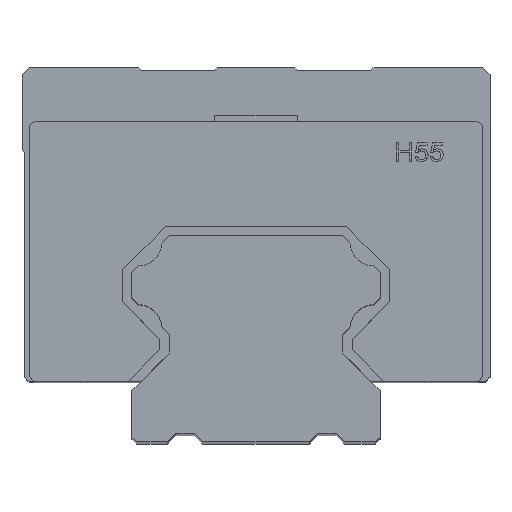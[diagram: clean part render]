
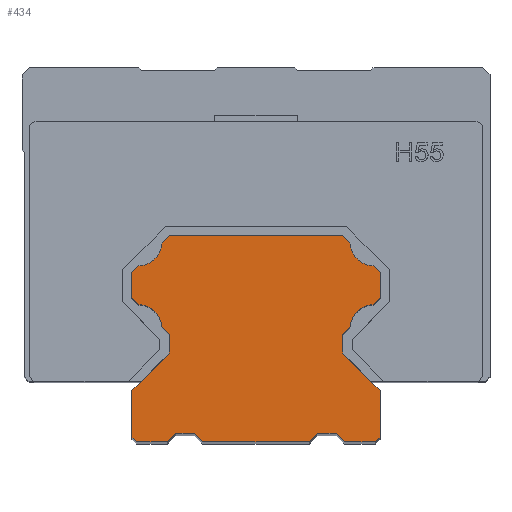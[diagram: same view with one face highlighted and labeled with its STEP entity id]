
A CAD part, top view. The second image highlights one B-rep face of the part: STEP entity #434.
In plain terms, the highlighted planar face has unit normal (0, 0, 1).
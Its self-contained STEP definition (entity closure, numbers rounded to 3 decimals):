
#215=FACE_OUTER_BOUND('',#917,.T.);
#434=ADVANCED_FACE('',(#215),#632,.F.);
#632=PLANE('',#4049);
#799=CIRCLE('',#4045,5.3);
#800=CIRCLE('',#4046,5.3);
#801=CIRCLE('',#4047,5.3);
#802=CIRCLE('',#4048,5.3);
#917=EDGE_LOOP('',(#1153,#1154,#1155,#1156,#1157,#1158,#1159,#1160,#1161,
#1162,#1163,#1164,#1165,#1166,#1167,#1168,#1169,#1170,#1171,#1172,#1173,
#1174,#1175,#1176,#1177,#1178,#1179,#1180,#1181,#1182,#1183,#1184));
#1153=ORIENTED_EDGE('',*,*,#2629,.F.);
#1154=ORIENTED_EDGE('',*,*,#2630,.F.);
#1155=ORIENTED_EDGE('',*,*,#2631,.F.);
#1156=ORIENTED_EDGE('',*,*,#2612,.T.);
#1157=ORIENTED_EDGE('',*,*,#2632,.F.);
#1158=ORIENTED_EDGE('',*,*,#2633,.F.);
#1159=ORIENTED_EDGE('',*,*,#2634,.F.);
#1160=ORIENTED_EDGE('',*,*,#2635,.T.);
#1161=ORIENTED_EDGE('',*,*,#2636,.F.);
#1162=ORIENTED_EDGE('',*,*,#2637,.T.);
#1163=ORIENTED_EDGE('',*,*,#2638,.F.);
#1164=ORIENTED_EDGE('',*,*,#2639,.T.);
#1165=ORIENTED_EDGE('',*,*,#2640,.F.);
#1166=ORIENTED_EDGE('',*,*,#2641,.F.);
#1167=ORIENTED_EDGE('',*,*,#2642,.F.);
#1168=ORIENTED_EDGE('',*,*,#2643,.T.);
#1169=ORIENTED_EDGE('',*,*,#2644,.F.);
#1170=ORIENTED_EDGE('',*,*,#2645,.F.);
#1171=ORIENTED_EDGE('',*,*,#2646,.F.);
#1172=ORIENTED_EDGE('',*,*,#2622,.F.);
#1173=ORIENTED_EDGE('',*,*,#2647,.F.);
#1174=ORIENTED_EDGE('',*,*,#2648,.F.);
#1175=ORIENTED_EDGE('',*,*,#2649,.F.);
#1176=ORIENTED_EDGE('',*,*,#2650,.F.);
#1177=ORIENTED_EDGE('',*,*,#2651,.F.);
#1178=ORIENTED_EDGE('',*,*,#2652,.F.);
#1179=ORIENTED_EDGE('',*,*,#2653,.F.);
#1180=ORIENTED_EDGE('',*,*,#2654,.F.);
#1181=ORIENTED_EDGE('',*,*,#2655,.F.);
#1182=ORIENTED_EDGE('',*,*,#2656,.F.);
#1183=ORIENTED_EDGE('',*,*,#2657,.F.);
#1184=ORIENTED_EDGE('',*,*,#2658,.T.);
#2229=VERTEX_POINT('',#5188);
#2232=VERTEX_POINT('',#5193);
#2239=VERTEX_POINT('',#5212);
#2242=VERTEX_POINT('',#5217);
#2249=VERTEX_POINT('',#5239);
#2250=VERTEX_POINT('',#5240);
#2251=VERTEX_POINT('',#5242);
#2252=VERTEX_POINT('',#5245);
#2253=VERTEX_POINT('',#5247);
#2254=VERTEX_POINT('',#5249);
#2255=VERTEX_POINT('',#5251);
#2256=VERTEX_POINT('',#5253);
#2257=VERTEX_POINT('',#5255);
#2258=VERTEX_POINT('',#5257);
#2259=VERTEX_POINT('',#5259);
#2260=VERTEX_POINT('',#5261);
#2261=VERTEX_POINT('',#5263);
#2262=VERTEX_POINT('',#5265);
#2263=VERTEX_POINT('',#5267);
#2264=VERTEX_POINT('',#5269);
#2265=VERTEX_POINT('',#5271);
#2266=VERTEX_POINT('',#5274);
#2267=VERTEX_POINT('',#5276);
#2268=VERTEX_POINT('',#5278);
#2269=VERTEX_POINT('',#5280);
#2270=VERTEX_POINT('',#5282);
#2271=VERTEX_POINT('',#5284);
#2272=VERTEX_POINT('',#5286);
#2273=VERTEX_POINT('',#5288);
#2274=VERTEX_POINT('',#5290);
#2275=VERTEX_POINT('',#5292);
#2276=VERTEX_POINT('',#5294);
#2612=EDGE_CURVE('',#2229,#2232,#3166,.T.);
#2622=EDGE_CURVE('',#2242,#2239,#3170,.T.);
#2629=EDGE_CURVE('',#2249,#2250,#3171,.T.);
#2630=EDGE_CURVE('',#2251,#2249,#3172,.T.);
#2631=EDGE_CURVE('',#2229,#2251,#3173,.T.);
#2632=EDGE_CURVE('',#2252,#2232,#3174,.T.);
#2633=EDGE_CURVE('',#2253,#2252,#3175,.T.);
#2634=EDGE_CURVE('',#2254,#2253,#3176,.T.);
#2635=EDGE_CURVE('',#2254,#2255,#3177,.T.);
#2636=EDGE_CURVE('',#2256,#2255,#3178,.T.);
#2637=EDGE_CURVE('',#2256,#2257,#3179,.T.);
#2638=EDGE_CURVE('',#2258,#2257,#3180,.T.);
#2639=EDGE_CURVE('',#2258,#2259,#3181,.T.);
#2640=EDGE_CURVE('',#2260,#2259,#3182,.T.);
#2641=EDGE_CURVE('',#2261,#2260,#799,.T.);
#2642=EDGE_CURVE('',#2262,#2261,#3183,.T.);
#2643=EDGE_CURVE('',#2262,#2263,#3184,.T.);
#2644=EDGE_CURVE('',#2264,#2263,#3185,.T.);
#2645=EDGE_CURVE('',#2265,#2264,#800,.T.);
#2646=EDGE_CURVE('',#2239,#2265,#3186,.T.);
#2647=EDGE_CURVE('',#2266,#2242,#3187,.T.);
#2648=EDGE_CURVE('',#2267,#2266,#801,.T.);
#2649=EDGE_CURVE('',#2268,#2267,#3188,.T.);
#2650=EDGE_CURVE('',#2269,#2268,#3189,.T.);
#2651=EDGE_CURVE('',#2270,#2269,#3190,.T.);
#2652=EDGE_CURVE('',#2271,#2270,#802,.T.);
#2653=EDGE_CURVE('',#2272,#2271,#3191,.T.);
#2654=EDGE_CURVE('',#2273,#2272,#3192,.T.);
#2655=EDGE_CURVE('',#2274,#2273,#3193,.T.);
#2656=EDGE_CURVE('',#2275,#2274,#3194,.T.);
#2657=EDGE_CURVE('',#2276,#2275,#3195,.T.);
#2658=EDGE_CURVE('',#2276,#2250,#3196,.T.);
#3166=LINE('',#5194,#3588);
#3170=LINE('',#5218,#3592);
#3171=LINE('',#5238,#3593);
#3172=LINE('',#5241,#3594);
#3173=LINE('',#5243,#3595);
#3174=LINE('',#5244,#3596);
#3175=LINE('',#5246,#3597);
#3176=LINE('',#5248,#3598);
#3177=LINE('',#5250,#3599);
#3178=LINE('',#5252,#3600);
#3179=LINE('',#5254,#3601);
#3180=LINE('',#5256,#3602);
#3181=LINE('',#5258,#3603);
#3182=LINE('',#5260,#3604);
#3183=LINE('',#5264,#3605);
#3184=LINE('',#5266,#3606);
#3185=LINE('',#5268,#3607);
#3186=LINE('',#5272,#3608);
#3187=LINE('',#5273,#3609);
#3188=LINE('',#5277,#3610);
#3189=LINE('',#5279,#3611);
#3190=LINE('',#5281,#3612);
#3191=LINE('',#5285,#3613);
#3192=LINE('',#5287,#3614);
#3193=LINE('',#5289,#3615);
#3194=LINE('',#5291,#3616);
#3195=LINE('',#5293,#3617);
#3196=LINE('',#5295,#3618);
#3588=VECTOR('',#4269,1.);
#3592=VECTOR('',#4293,1.);
#3593=VECTOR('',#4320,1.);
#3594=VECTOR('',#4321,1.);
#3595=VECTOR('',#4322,1.);
#3596=VECTOR('',#4323,1.);
#3597=VECTOR('',#4324,1.);
#3598=VECTOR('',#4325,1.);
#3599=VECTOR('',#4326,1.);
#3600=VECTOR('',#4327,1.);
#3601=VECTOR('',#4328,1.);
#3602=VECTOR('',#4329,1.);
#3603=VECTOR('',#4330,1.);
#3604=VECTOR('',#4331,1.);
#3605=VECTOR('',#4334,1.);
#3606=VECTOR('',#4335,1.);
#3607=VECTOR('',#4336,1.);
#3608=VECTOR('',#4339,1.);
#3609=VECTOR('',#4340,1.);
#3610=VECTOR('',#4343,1.);
#3611=VECTOR('',#4344,1.);
#3612=VECTOR('',#4345,1.);
#3613=VECTOR('',#4348,1.);
#3614=VECTOR('',#4349,1.);
#3615=VECTOR('',#4350,1.);
#3616=VECTOR('',#4351,1.);
#3617=VECTOR('',#4352,1.);
#3618=VECTOR('',#4353,1.);
#4045=AXIS2_PLACEMENT_3D('',#5262,#4332,#4333);
#4046=AXIS2_PLACEMENT_3D('',#5270,#4337,#4338);
#4047=AXIS2_PLACEMENT_3D('',#5275,#4341,#4342);
#4048=AXIS2_PLACEMENT_3D('',#5283,#4346,#4347);
#4049=AXIS2_PLACEMENT_3D('',#5296,#4354,#4355);
#4269=DIRECTION('',(1.,0.,0.));
#4293=DIRECTION('',(1.,0.,0.));
#4320=DIRECTION('',(-0.707,-0.707,0.));
#4321=DIRECTION('',(-1.,0.,0.));
#4322=DIRECTION('',(-0.707,0.707,0.));
#4323=DIRECTION('',(-0.707,-0.707,0.));
#4324=DIRECTION('',(-1.,0.,0.));
#4325=DIRECTION('',(-0.707,0.707,0.));
#4326=DIRECTION('',(1.,0.,0.));
#4327=DIRECTION('',(-0.707,-0.707,0.));
#4328=DIRECTION('',(0.,1.,0.));
#4329=DIRECTION('',(0.707,-0.707,0.));
#4330=DIRECTION('',(0.,1.,0.));
#4331=DIRECTION('',(-0.707,-0.707,0.));
#4332=DIRECTION('',(0.,0.,1.));
#4333=DIRECTION('',(-0.063,0.998,0.));
#4334=DIRECTION('',(-0.707,-0.707,0.));
#4335=DIRECTION('',(0.,1.,0.));
#4336=DIRECTION('',(0.707,-0.707,0.));
#4337=DIRECTION('',(0.,0.,1.));
#4338=DIRECTION('',(-0.998,-0.063,0.));
#4339=DIRECTION('',(0.707,-0.707,0.));
#4340=DIRECTION('',(0.707,0.707,0.));
#4341=DIRECTION('',(0.,0.,1.));
#4342=DIRECTION('',(0.063,-0.998,0.));
#4343=DIRECTION('',(0.707,0.707,0.));
#4344=DIRECTION('',(0.,1.,0.));
#4345=DIRECTION('',(-0.707,0.707,0.));
#4346=DIRECTION('',(0.,0.,1.));
#4347=DIRECTION('',(0.998,0.063,0.));
#4348=DIRECTION('',(-0.707,0.707,0.));
#4349=DIRECTION('',(0.,1.,0.));
#4350=DIRECTION('',(0.707,0.707,0.));
#4351=DIRECTION('',(0.,1.,0.));
#4352=DIRECTION('',(-0.707,0.707,0.));
#4353=DIRECTION('',(1.,0.,0.));
#4354=DIRECTION('',(0.,0.,-1.));
#4355=DIRECTION('',(-1.,0.,0.));
#5188=CARTESIAN_POINT('',(-11.357,0.,-840.));
#5193=CARTESIAN_POINT('',(11.357,0.,-840.));
#5194=CARTESIAN_POINT('',(-11.357,0.,-840.));
#5212=CARTESIAN_POINT('',(18.55,44.,-840.));
#5217=CARTESIAN_POINT('',(-18.55,44.,-840.));
#5218=CARTESIAN_POINT('',(-18.55,44.,-840.));
#5238=CARTESIAN_POINT('',(-17.162,1.767,-840.));
#5239=CARTESIAN_POINT('',(-17.162,1.767,-840.));
#5240=CARTESIAN_POINT('',(-18.929,0.,-840.));
#5241=CARTESIAN_POINT('',(-13.124,1.767,-840.));
#5242=CARTESIAN_POINT('',(-13.124,1.767,-840.));
#5243=CARTESIAN_POINT('',(-11.357,0.,-840.));
#5244=CARTESIAN_POINT('',(13.124,1.767,-840.));
#5245=CARTESIAN_POINT('',(13.124,1.767,-840.));
#5246=CARTESIAN_POINT('',(17.162,1.767,-840.));
#5247=CARTESIAN_POINT('',(17.162,1.767,-840.));
#5248=CARTESIAN_POINT('',(18.929,0.,-840.));
#5249=CARTESIAN_POINT('',(18.929,0.,-840.));
#5250=CARTESIAN_POINT('',(18.929,0.,-840.));
#5251=CARTESIAN_POINT('',(25.5,0.,-840.));
#5252=CARTESIAN_POINT('',(26.5,1.,-840.));
#5253=CARTESIAN_POINT('',(26.5,1.,-840.));
#5254=CARTESIAN_POINT('',(26.5,1.,-840.));
#5255=CARTESIAN_POINT('',(26.5,11.,-840.));
#5256=CARTESIAN_POINT('',(18.55,18.95,-840.));
#5257=CARTESIAN_POINT('',(18.55,18.95,-840.));
#5258=CARTESIAN_POINT('',(18.55,18.95,-840.));
#5259=CARTESIAN_POINT('',(18.55,22.85,-840.));
#5260=CARTESIAN_POINT('',(20.046,24.346,-840.));
#5261=CARTESIAN_POINT('',(20.046,24.346,-840.));
#5262=CARTESIAN_POINT('',(25.336,24.014,-840.));
#5263=CARTESIAN_POINT('',(25.004,29.304,-840.));
#5264=CARTESIAN_POINT('',(26.5,30.8,-840.));
#5265=CARTESIAN_POINT('',(26.5,30.8,-840.));
#5266=CARTESIAN_POINT('',(26.5,30.8,-840.));
#5267=CARTESIAN_POINT('',(26.5,36.05,-840.));
#5268=CARTESIAN_POINT('',(25.004,37.546,-840.));
#5269=CARTESIAN_POINT('',(25.004,37.546,-840.));
#5270=CARTESIAN_POINT('',(25.336,42.836,-840.));
#5271=CARTESIAN_POINT('',(20.046,42.504,-840.));
#5272=CARTESIAN_POINT('',(18.55,44.,-840.));
#5273=CARTESIAN_POINT('',(-20.046,42.504,-840.));
#5274=CARTESIAN_POINT('',(-20.046,42.504,-840.));
#5275=CARTESIAN_POINT('',(-25.336,42.836,-840.));
#5276=CARTESIAN_POINT('',(-25.004,37.546,-840.));
#5277=CARTESIAN_POINT('',(-26.5,36.05,-840.));
#5278=CARTESIAN_POINT('',(-26.5,36.05,-840.));
#5279=CARTESIAN_POINT('',(-26.5,30.8,-840.));
#5280=CARTESIAN_POINT('',(-26.5,30.8,-840.));
#5281=CARTESIAN_POINT('',(-25.004,29.304,-840.));
#5282=CARTESIAN_POINT('',(-25.004,29.304,-840.));
#5283=CARTESIAN_POINT('',(-25.336,24.014,-840.));
#5284=CARTESIAN_POINT('',(-20.046,24.346,-840.));
#5285=CARTESIAN_POINT('',(-18.55,22.85,-840.));
#5286=CARTESIAN_POINT('',(-18.55,22.85,-840.));
#5287=CARTESIAN_POINT('',(-18.55,18.95,-840.));
#5288=CARTESIAN_POINT('',(-18.55,18.95,-840.));
#5289=CARTESIAN_POINT('',(-26.5,11.,-840.));
#5290=CARTESIAN_POINT('',(-26.5,11.,-840.));
#5291=CARTESIAN_POINT('',(-26.5,1.,-840.));
#5292=CARTESIAN_POINT('',(-26.5,1.,-840.));
#5293=CARTESIAN_POINT('',(-25.5,0.,-840.));
#5294=CARTESIAN_POINT('',(-25.5,0.,-840.));
#5295=CARTESIAN_POINT('',(-25.5,0.,-840.));
#5296=CARTESIAN_POINT('',(29.15,-2.2,-840.));
